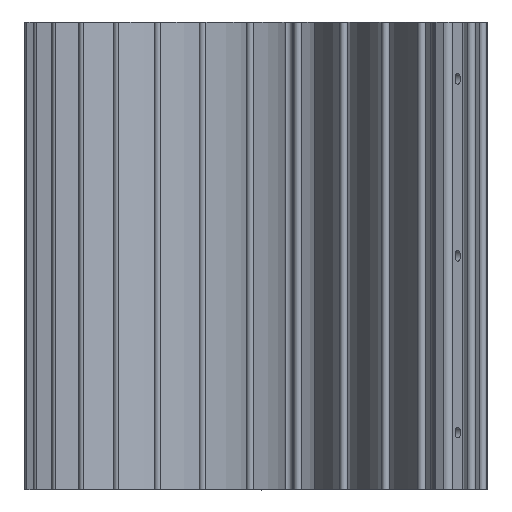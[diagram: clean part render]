
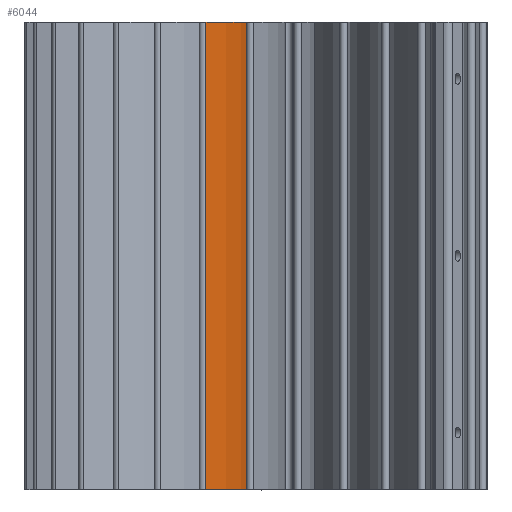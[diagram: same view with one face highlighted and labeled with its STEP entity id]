
A CAD part, top view. The second image highlights one B-rep face of the part: STEP entity #6044.
In plain terms, the highlighted cylindrical face has radius 30 mm (diameter 60 mm), a partial arc.
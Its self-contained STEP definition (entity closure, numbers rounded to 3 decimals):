
#62=CARTESIAN_POINT('',(-28.843,0.,12.584));
#63=DIRECTION('',(0.,1.,0.));
#64=DIRECTION('',(0.712,0.,0.703));
#65=AXIS2_PLACEMENT_3D('',#62,#63,#64);
#1119=CARTESIAN_POINT('',(-28.843,70.,12.584));
#1120=DIRECTION('',(0.,1.,0.));
#1121=DIRECTION('',(0.712,0.,0.703));
#1122=AXIS2_PLACEMENT_3D('',#1119,#1120,#1121);
#2187=DIRECTION('',(0.,-1.,0.));
#2188=VECTOR('',#2187,70.);
#2189=CARTESIAN_POINT('',(-7.492,70.,33.659));
#2190=LINE('',#2189,#2188);
#2191=DIRECTION('',(0.,1.,0.));
#2192=VECTOR('',#2191,70.);
#2193=CARTESIAN_POINT('',(1.15,0.,13.263));
#2194=LINE('',#2193,#2192);
#3015=CARTESIAN_POINT('',(1.15,0.,13.263));
#3017=VERTEX_POINT('',#3015);
#3018=CARTESIAN_POINT('',(1.15,70.,13.263));
#3020=VERTEX_POINT('',#3018);
#3263=CARTESIAN_POINT('',(-7.492,0.,33.659));
#3265=VERTEX_POINT('',#3263);
#3268=CARTESIAN_POINT('',(-7.492,70.,33.659));
#3269=VERTEX_POINT('',#3268);
#6032=CARTESIAN_POINT('',(-28.843,0.,12.584));
#6033=DIRECTION('',(0.,1.,0.));
#6034=DIRECTION('',(-0.995,0.,0.105));
#6035=AXIS2_PLACEMENT_3D('',#6032,#6033,#6034);
#6036=CYLINDRICAL_SURFACE('',#6035,30.);
#6037=ORIENTED_EDGE('',*,*,#6027,.F.);
#6038=ORIENTED_EDGE('',*,*,#4392,.T.);
#6040=ORIENTED_EDGE('',*,*,#6039,.F.);
#6041=ORIENTED_EDGE('',*,*,#3784,.F.);
#6042=EDGE_LOOP('',(#6037,#6038,#6040,#6041));
#6043=FACE_OUTER_BOUND('',#6042,.F.);
#6044=ADVANCED_FACE('',(#6043),#6036,.T.);
#66=CIRCLE('',#65,30.);
#1123=CIRCLE('',#1122,30.);
#3784=EDGE_CURVE('',#3265,#3017,#66,.T.);
#4392=EDGE_CURVE('',#3269,#3020,#1123,.T.);
#6027=EDGE_CURVE('',#3269,#3265,#2190,.T.);
#6039=EDGE_CURVE('',#3017,#3020,#2194,.T.);
